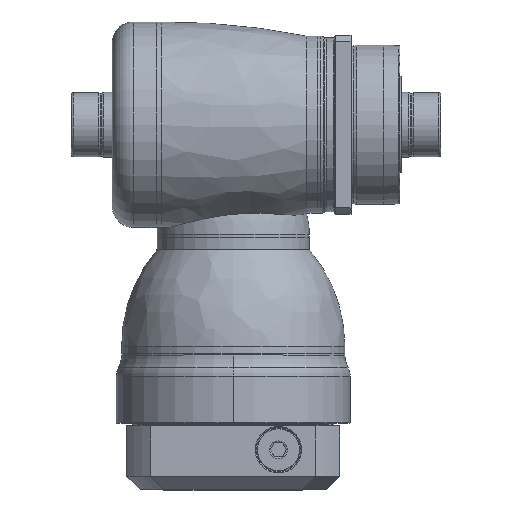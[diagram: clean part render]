
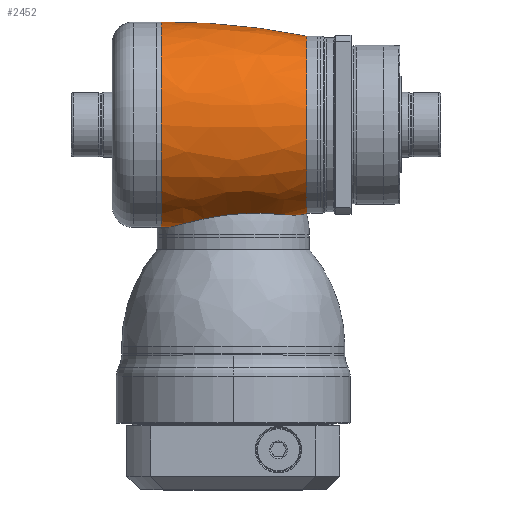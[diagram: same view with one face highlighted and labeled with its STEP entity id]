
A CAD part, top view. The second image highlights one B-rep face of the part: STEP entity #2452.
In plain terms, the highlighted free-form (B-spline) face has degree [3, 3] with [7, 4] control points.
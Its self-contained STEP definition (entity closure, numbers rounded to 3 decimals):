
#543=CARTESIAN_POINT('',(-38.133,341.993,
0.));
#544=DIRECTION('',(0.,0.,-1.));
#545=DIRECTION('',(0.199,-0.98,0.));
#546=AXIS2_PLACEMENT_3D('',#543,#544,#545);
#553=CARTESIAN_POINT('',(-38.133,-341.993,
0.));
#554=DIRECTION('',(0.,0.,1.));
#555=DIRECTION('',(0.199,0.98,0.));
#556=AXIS2_PLACEMENT_3D('',#553,#554,#555);
#578=CARTESIAN_POINT('',(-40.5,57.997,0.555));
#580=CARTESIAN_POINT('',(-40.5,0.,0.));
#581=DIRECTION('',(1.,0.,0.));
#582=DIRECTION('',(0.,1.,0.01));
#583=AXIS2_PLACEMENT_3D('',#580,#581,#582);
#601=CARTESIAN_POINT('',(-40.5,0.,0.));
#602=DIRECTION('',(-1.,0.,0.));
#603=DIRECTION('',(0.,-0.999,-0.054));
#604=AXIS2_PLACEMENT_3D('',#601,#602,#603);
#779=CARTESIAN_POINT('',(-40.249,58.001,
0.));
#780=CARTESIAN_POINT('',(-40.249,58.001,0.069));
#781=CARTESIAN_POINT('',(-40.268,58.001,0.209));
#782=CARTESIAN_POINT('',(-40.356,58.,0.402));
#783=CARTESIAN_POINT('',(-40.448,57.998,0.509));
#784=CARTESIAN_POINT('',(-40.5,57.997,0.555));
#786=CARTESIAN_POINT('',(41.5,0.,0.));
#787=DIRECTION('',(1.,0.,0.));
#788=DIRECTION('',(0.,1.,0.));
#789=AXIS2_PLACEMENT_3D('',#786,#787,#788);
#791=CARTESIAN_POINT('',(37.853,-50.723,
0.));
#792=CARTESIAN_POINT('',(37.201,-50.849,1.535));
#793=CARTESIAN_POINT('',(35.679,-51.003,4.541));
#794=CARTESIAN_POINT('',(32.646,-50.982,8.913));
#795=CARTESIAN_POINT('',(28.982,-50.777,12.881));
#796=CARTESIAN_POINT('',(24.797,-50.487,16.34));
#797=CARTESIAN_POINT('',(20.137,-50.203,19.257));
#798=CARTESIAN_POINT('',(15.063,-50.016,21.589));
#799=CARTESIAN_POINT('',(9.633,-50.004,23.29));
#800=CARTESIAN_POINT('',(3.914,-50.231,24.313));
#801=CARTESIAN_POINT('',(-2.014,-50.741,24.595));
#802=CARTESIAN_POINT('',(-7.959,-51.534,24.088));
#803=CARTESIAN_POINT('',(-13.747,-52.561,22.787));
#804=CARTESIAN_POINT('',(-19.259,-53.743,20.707));
#805=CARTESIAN_POINT('',(-24.358,-54.972,17.898));
#806=CARTESIAN_POINT('',(-28.918,-56.121,14.452));
#807=CARTESIAN_POINT('',(-32.85,-57.073,10.493));
#808=CARTESIAN_POINT('',(-36.11,-57.736,6.162));
#809=CARTESIAN_POINT('',(-38.693,-58.049,1.578));
#810=CARTESIAN_POINT('',(-39.967,-58.004,
-1.557));
#811=CARTESIAN_POINT('',(-40.5,-57.915,-3.141));
#831=CARTESIAN_POINT('',(-40.5,-57.915,-3.141));
#862=CARTESIAN_POINT('',(41.5,50.,0.));
#864=VERTEX_POINT('',#862);
#866=CARTESIAN_POINT('',(41.5,-50.,0.));
#868=VERTEX_POINT('',#866);
#869=CARTESIAN_POINT('',(37.853,-50.723,
0.));
#870=VERTEX_POINT('',#869);
#871=CARTESIAN_POINT('',(-40.5,-58.,0.));
#873=VERTEX_POINT('',#871);
#900=VERTEX_POINT('',#831);
#930=VERTEX_POINT('',#578);
#935=VERTEX_POINT('',#779);
#2413=CARTESIAN_POINT('',(-42.151,57.868,
-3.704));
#2414=CARTESIAN_POINT('',(-13.485,58.156,
-3.722));
#2415=CARTESIAN_POINT('',(15.047,55.378,-3.544));
#2416=CARTESIAN_POINT('',(43.117,49.567,-3.172));
#2417=CARTESIAN_POINT('',(-42.151,60.198,32.694));
#2418=CARTESIAN_POINT('',(-13.485,60.497,32.856));
#2419=CARTESIAN_POINT('',(15.047,57.607,31.287));
#2420=CARTESIAN_POINT('',(43.117,51.562,28.003));
#2421=CARTESIAN_POINT('',(-42.151,34.888,58.954));
#2422=CARTESIAN_POINT('',(-13.485,35.061,59.246));
#2423=CARTESIAN_POINT('',(15.047,33.386,56.416));
#2424=CARTESIAN_POINT('',(43.117,29.883,50.496));
#2425=CARTESIAN_POINT('',(-42.151,-1.571,
57.966));
#2426=CARTESIAN_POINT('',(-13.485,-1.579,
58.253));
#2427=CARTESIAN_POINT('',(15.047,-1.503,55.471));
#2428=CARTESIAN_POINT('',(43.117,-1.346,49.65));
#2429=CARTESIAN_POINT('',(-42.151,-38.029,
56.977));
#2430=CARTESIAN_POINT('',(-13.485,-38.218,
57.26));
#2431=CARTESIAN_POINT('',(15.047,-36.393,54.525));
#2432=CARTESIAN_POINT('',(43.117,-32.574,48.804));
#2433=CARTESIAN_POINT('',(-42.151,-61.88,
29.385));
#2434=CARTESIAN_POINT('',(-13.485,-62.188,
29.531));
#2435=CARTESIAN_POINT('',(15.047,-59.217,28.121));
#2436=CARTESIAN_POINT('',(43.117,-53.003,25.17));
#2437=CARTESIAN_POINT('',(-42.151,-57.583,
-6.833));
#2438=CARTESIAN_POINT('',(-13.485,-57.869,
-6.866));
#2439=CARTESIAN_POINT('',(15.047,-55.105,
-6.538));
#2440=CARTESIAN_POINT('',(43.117,-49.322,
-5.852));
#2441=(BOUNDED_SURFACE()B_SPLINE_SURFACE(3,3,((#2413,#2414,#2415,#2416),(#2417,
#2418,#2419,#2420),(#2421,#2422,#2423,#2424),(#2425,#2426,#2427,#2428),(#2429,
#2430,#2431,#2432),(#2433,#2434,#2435,#2436),(#2437,#2438,#2439,#2440)),
.UNSPECIFIED.,.F.,.F.,.F.)B_SPLINE_SURFACE_WITH_KNOTS((4,3,4),(4,4),(0.,1.,
2.),(0.,1.),.UNSPECIFIED.)GEOMETRIC_REPRESENTATION_ITEM()RATIONAL_B_SPLINE_SURFACE(((1.198,1.193,1.193,1.198),(
0.938,0.934,0.934,0.938),(
0.938,0.934,0.934,0.938),(
1.198,1.193,1.193,1.198),(
0.938,0.934,0.934,0.938),(
0.938,0.934,0.934,0.938),(
1.198,1.193,1.193,1.198)))REPRESENTATION_ITEM('')SURFACE());
#2442=ORIENTED_EDGE('',*,*,#2061,.F.);
#2443=ORIENTED_EDGE('',*,*,#2042,.F.);
#2444=ORIENTED_EDGE('',*,*,#2396,.T.);
#2445=ORIENTED_EDGE('',*,*,#2038,.T.);
#2447=ORIENTED_EDGE('',*,*,#2446,.T.);
#2448=ORIENTED_EDGE('',*,*,#2108,.T.);
#2449=ORIENTED_EDGE('',*,*,#2074,.F.);
#2450=EDGE_LOOP('',(#2442,#2443,#2444,#2445,#2447,#2448,#2449));
#2451=FACE_OUTER_BOUND('',#2450,.F.);
#2452=ADVANCED_FACE('',(#2451),#2441,.T.);
#547=CIRCLE('',#546,400.);
#557=CIRCLE('',#556,400.);
#584=CIRCLE('',#583,58.);
#605=CIRCLE('',#604,58.);
#785=B_SPLINE_CURVE_WITH_KNOTS('',3,(#779,#780,#781,#782,#783,#784),
.UNSPECIFIED.,.F.,.F.,(4,1,1,4),(0.,0.333,0.667,1.),
.UNSPECIFIED.);
#790=CIRCLE('',#789,50.);
#812=B_SPLINE_CURVE_WITH_KNOTS('',3,(#791,#792,#793,#794,#795,#796,#797,#798,
#799,#800,#801,#802,#803,#804,#805,#806,#807,#808,#809,#810,#811),.UNSPECIFIED.,
.F.,.F.,(4,1,1,1,1,1,1,1,1,1,1,1,1,1,1,1,1,1,4),(0.,0.056,
0.111,0.167,0.222,0.278,
0.333,0.389,0.444,0.5,0.556,
0.611,0.667,0.722,0.778,
0.833,0.889,0.944,1.),.UNSPECIFIED.);
#2038=EDGE_CURVE('',#868,#870,#547,.T.);
#2042=EDGE_CURVE('',#864,#935,#557,.T.);
#2061=EDGE_CURVE('',#935,#930,#785,.T.);
#2074=EDGE_CURVE('',#930,#873,#584,.T.);
#2108=EDGE_CURVE('',#900,#873,#605,.T.);
#2396=EDGE_CURVE('',#864,#868,#790,.T.);
#2446=EDGE_CURVE('',#870,#900,#812,.T.);
